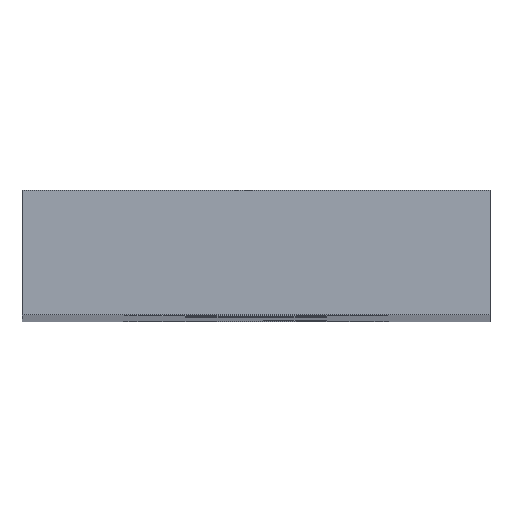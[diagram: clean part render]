
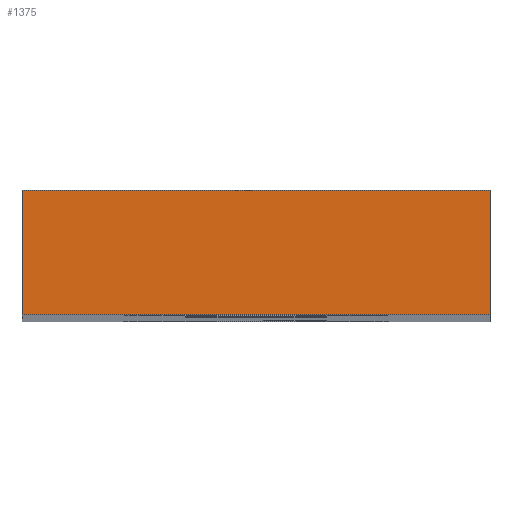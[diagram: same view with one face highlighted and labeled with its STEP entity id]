
A CAD part, top view. The second image highlights one B-rep face of the part: STEP entity #1375.
In plain terms, the highlighted planar face has unit normal (0, 0, 1).
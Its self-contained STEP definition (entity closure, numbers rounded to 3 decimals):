
#42 = VERTEX_POINT('',#43);
#43 = CARTESIAN_POINT('',(30.85,-7.2,30.));
#50 = PLANE('',#51);
#51 = AXIS2_PLACEMENT_3D('',#52,#53,#54);
#52 = CARTESIAN_POINT('',(30.85,-7.2,-20.));
#53 = DIRECTION('',(1.,0.,0.));
#54 = DIRECTION('',(0.,0.,1.));
#62 = PLANE('',#63);
#63 = AXIS2_PLACEMENT_3D('',#64,#65,#66);
#64 = CARTESIAN_POINT('',(30.85,-7.2,-20.));
#65 = DIRECTION('',(0.,1.,0.));
#66 = DIRECTION('',(0.,-0.,1.));
#103 = VERTEX_POINT('',#104);
#104 = CARTESIAN_POINT('',(30.85,-5.6,30.));
#118 = PLANE('',#119);
#119 = AXIS2_PLACEMENT_3D('',#120,#121,#122);
#120 = CARTESIAN_POINT('',(30.85,-5.6,-20.));
#121 = DIRECTION('',(0.,1.,0.));
#122 = DIRECTION('',(0.,-0.,1.));
#130 = EDGE_CURVE('',#42,#103,#131,.T.);
#131 = SURFACE_CURVE('',#132,(#136,#143),.PCURVE_S1.);
#132 = LINE('',#133,#134);
#133 = CARTESIAN_POINT('',(30.85,-7.2,30.));
#134 = VECTOR('',#135,1.);
#135 = DIRECTION('',(0.,1.,0.));
#136 = PCURVE('',#50,#137);
#137 = DEFINITIONAL_REPRESENTATION('',(#138),#142);
#138 = LINE('',#139,#140);
#139 = CARTESIAN_POINT('',(50.,0.));
#140 = VECTOR('',#141,1.);
#141 = DIRECTION('',(0.,-1.));
#142 = ( GEOMETRIC_REPRESENTATION_CONTEXT(2) 
PARAMETRIC_REPRESENTATION_CONTEXT() REPRESENTATION_CONTEXT('2D SPACE',''
  ) );
#143 = PCURVE('',#144,#149);
#144 = PLANE('',#145);
#145 = AXIS2_PLACEMENT_3D('',#146,#147,#148);
#146 = CARTESIAN_POINT('',(30.85,-7.2,30.));
#147 = DIRECTION('',(0.,0.,1.));
#148 = DIRECTION('',(1.,0.,-0.));
#149 = DEFINITIONAL_REPRESENTATION('',(#150),#154);
#150 = LINE('',#151,#152);
#151 = CARTESIAN_POINT('',(0.,0.));
#152 = VECTOR('',#153,1.);
#153 = DIRECTION('',(0.,1.));
#154 = ( GEOMETRIC_REPRESENTATION_CONTEXT(2) 
PARAMETRIC_REPRESENTATION_CONTEXT() REPRESENTATION_CONTEXT('2D SPACE',''
  ) );
#183 = EDGE_CURVE('',#42,#184,#186,.T.);
#184 = VERTEX_POINT('',#185);
#185 = CARTESIAN_POINT('',(36.85,-7.2,30.));
#186 = SURFACE_CURVE('',#187,(#191,#198),.PCURVE_S1.);
#187 = LINE('',#188,#189);
#188 = CARTESIAN_POINT('',(30.85,-7.2,30.));
#189 = VECTOR('',#190,1.);
#190 = DIRECTION('',(1.,0.,0.));
#191 = PCURVE('',#62,#192);
#192 = DEFINITIONAL_REPRESENTATION('',(#193),#197);
#193 = LINE('',#194,#195);
#194 = CARTESIAN_POINT('',(50.,0.));
#195 = VECTOR('',#196,1.);
#196 = DIRECTION('',(0.,1.));
#197 = ( GEOMETRIC_REPRESENTATION_CONTEXT(2) 
PARAMETRIC_REPRESENTATION_CONTEXT() REPRESENTATION_CONTEXT('2D SPACE',''
  ) );
#198 = PCURVE('',#144,#199);
#199 = DEFINITIONAL_REPRESENTATION('',(#200),#204);
#200 = LINE('',#201,#202);
#201 = CARTESIAN_POINT('',(0.,0.));
#202 = VECTOR('',#203,1.);
#203 = DIRECTION('',(1.,0.));
#204 = ( GEOMETRIC_REPRESENTATION_CONTEXT(2) 
PARAMETRIC_REPRESENTATION_CONTEXT() REPRESENTATION_CONTEXT('2D SPACE',''
  ) );
#220 = PLANE('',#221);
#221 = AXIS2_PLACEMENT_3D('',#222,#223,#224);
#222 = CARTESIAN_POINT('',(36.85,-7.2,-20.));
#223 = DIRECTION('',(1.,0.,0.));
#224 = DIRECTION('',(0.,0.,1.));
#1375 = ADVANCED_FACE('',(#1376),#144,.T.);
#1376 = FACE_BOUND('',#1377,.T.);
#1377 = EDGE_LOOP('',(#1378,#1379,#1380,#1403));
#1378 = ORIENTED_EDGE('',*,*,#130,.F.);
#1379 = ORIENTED_EDGE('',*,*,#183,.T.);
#1380 = ORIENTED_EDGE('',*,*,#1381,.T.);
#1381 = EDGE_CURVE('',#184,#1382,#1384,.T.);
#1382 = VERTEX_POINT('',#1383);
#1383 = CARTESIAN_POINT('',(36.85,-5.6,30.));
#1384 = SURFACE_CURVE('',#1385,(#1389,#1396),.PCURVE_S1.);
#1385 = LINE('',#1386,#1387);
#1386 = CARTESIAN_POINT('',(36.85,-7.2,30.));
#1387 = VECTOR('',#1388,1.);
#1388 = DIRECTION('',(0.,1.,0.));
#1389 = PCURVE('',#144,#1390);
#1390 = DEFINITIONAL_REPRESENTATION('',(#1391),#1395);
#1391 = LINE('',#1392,#1393);
#1392 = CARTESIAN_POINT('',(6.,0.));
#1393 = VECTOR('',#1394,1.);
#1394 = DIRECTION('',(0.,1.));
#1395 = ( GEOMETRIC_REPRESENTATION_CONTEXT(2) 
PARAMETRIC_REPRESENTATION_CONTEXT() REPRESENTATION_CONTEXT('2D SPACE',''
  ) );
#1396 = PCURVE('',#220,#1397);
#1397 = DEFINITIONAL_REPRESENTATION('',(#1398),#1402);
#1398 = LINE('',#1399,#1400);
#1399 = CARTESIAN_POINT('',(50.,0.));
#1400 = VECTOR('',#1401,1.);
#1401 = DIRECTION('',(0.,-1.));
#1402 = ( GEOMETRIC_REPRESENTATION_CONTEXT(2) 
PARAMETRIC_REPRESENTATION_CONTEXT() REPRESENTATION_CONTEXT('2D SPACE',''
  ) );
#1403 = ORIENTED_EDGE('',*,*,#1404,.F.);
#1404 = EDGE_CURVE('',#103,#1382,#1405,.T.);
#1405 = SURFACE_CURVE('',#1406,(#1410,#1417),.PCURVE_S1.);
#1406 = LINE('',#1407,#1408);
#1407 = CARTESIAN_POINT('',(30.85,-5.6,30.));
#1408 = VECTOR('',#1409,1.);
#1409 = DIRECTION('',(1.,0.,0.));
#1410 = PCURVE('',#144,#1411);
#1411 = DEFINITIONAL_REPRESENTATION('',(#1412),#1416);
#1412 = LINE('',#1413,#1414);
#1413 = CARTESIAN_POINT('',(0.,1.6));
#1414 = VECTOR('',#1415,1.);
#1415 = DIRECTION('',(1.,0.));
#1416 = ( GEOMETRIC_REPRESENTATION_CONTEXT(2) 
PARAMETRIC_REPRESENTATION_CONTEXT() REPRESENTATION_CONTEXT('2D SPACE',''
  ) );
#1417 = PCURVE('',#118,#1418);
#1418 = DEFINITIONAL_REPRESENTATION('',(#1419),#1423);
#1419 = LINE('',#1420,#1421);
#1420 = CARTESIAN_POINT('',(50.,0.));
#1421 = VECTOR('',#1422,1.);
#1422 = DIRECTION('',(0.,1.));
#1423 = ( GEOMETRIC_REPRESENTATION_CONTEXT(2) 
PARAMETRIC_REPRESENTATION_CONTEXT() REPRESENTATION_CONTEXT('2D SPACE',''
  ) );
